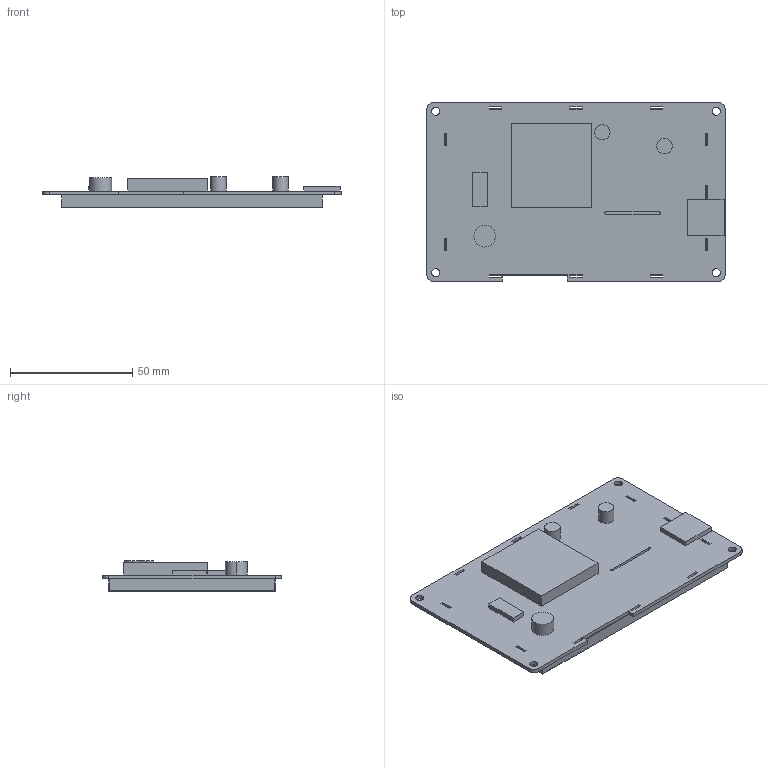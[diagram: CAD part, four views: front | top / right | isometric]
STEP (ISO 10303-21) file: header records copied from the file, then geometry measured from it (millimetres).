
FILE_DESCRIPTION((''),'2;1');
FILE_NAME('3D-DMG48270C043-04WN','2024-12-19T',('Administrator'),(''),'PRO/ENGINEER BY PARAMETRIC TECHNOLOGY CORPORATION, 2011310','PRO/ENGINEER BY PARAMETRIC TECHNOLOGY CORPORATION, 2011310','');
FILE_SCHEMA(('CONFIG_CONTROL_DESIGN','SHAPE_APPEARANCE_LAYERS_GROUPS'));
Products named in the file (1): 3D-DMG48270C043-04WN
Bounding box: 121.92 x 73.15 x 12.4 mm (x, y, z)
Volume: 42784.6 mm3; surface area: 38550.6 mm2
Topology: 1 solids, 1 shells, 132 faces, 10230 edges, 11364 vertices
Faces by surface type: plane 112, cylinder 20
Entity records: 128634 total; most frequent: PRESENTATION_STYLE_ASSIGNMENT 15245, STYLED_ITEM 15245, DIRECTION 14308, CURVE_STYLE 12542, CARTESIAN_POINT 10600, TRIMMED_CURVE 9864, COMPOSITE_CURVE_SEGMENT 9857, VECTOR 6420
